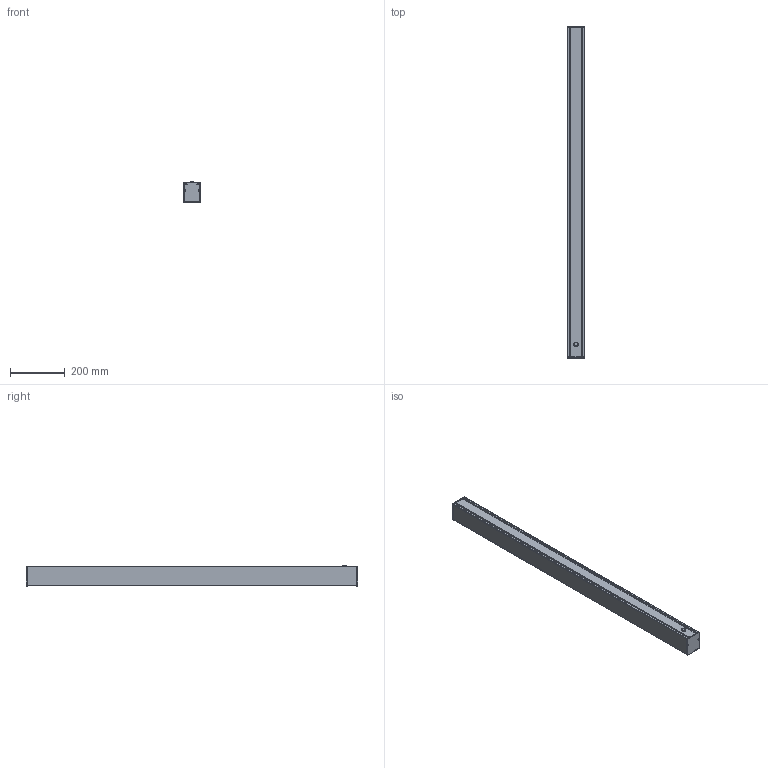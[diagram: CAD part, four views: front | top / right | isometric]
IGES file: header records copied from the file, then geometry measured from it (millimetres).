
Start section: SolidWorks IGES file using NURBS representation for surfaces
Global section: file name: Z:\Modele 3D_WWW\_Commercial\CL-OFFICE-PRO-LED\CL-OFFICE-PRO-LED-120-8298-8296-8300-8297\CL-OFFICE-PRO-LED-120-8298-8296-8300-8297.IGS; native system: SolidWorks 2021; preprocessor: SolidWorks 2021; author: gabriela.tworek; date: 220224.135357; units: millimetre
Bounding box: 63.3 x 1208 x 73.98 mm (x, y, z)
Surface area: 683044.4 mm2 (no closed solid volume)
Topology: 0 solids, 0 shells, 87 faces, 428 edges, 412 vertices
Faces by surface type: bspline 87
